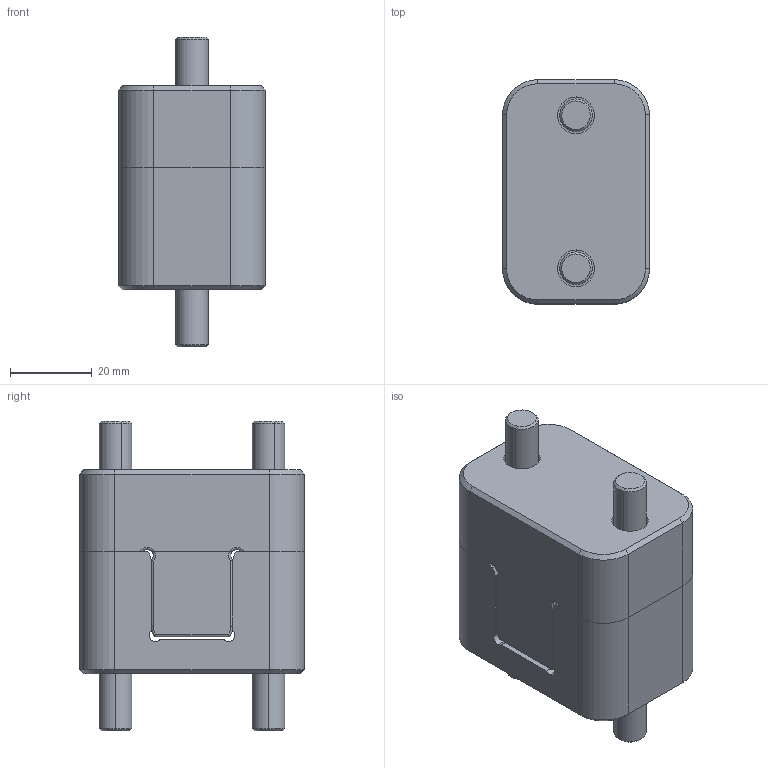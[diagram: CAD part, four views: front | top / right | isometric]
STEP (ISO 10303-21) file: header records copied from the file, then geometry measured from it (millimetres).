
FILE_DESCRIPTION (( 'STEP AP203' ), '1' );
FILE_NAME ('TLM36X55-R.step', '2018-03-16T16:55:22', ( '' ), ( '' ), 'SwSTEP 2.0', 'SolidWorks 2015', '' );
FILE_SCHEMA (( 'CONFIG_CONTROL_DESIGN' ));
Length unit declared in the file: millimetre
Products named in the file (5): TLM36X55-R MALE; TLM36X55-R; M8_X_35; M8_X_22; TLM36X55-R FEMALE
Assembly tree (6 placements, depth 2):
  TLM36X55-R
    TLM36X55-R MALE
    TLM36X55-R FEMALE
    M8_X_22  x2
    M8_X_35  x2
Bounding box: 36 x 55 x 76 mm (x, y, z)
Volume: 92876 mm3; surface area: 27485.7 mm2
Topology: 6 solids, 6 shells, 412 faces, 914 edges, 594 vertices
Faces by surface type: cylinder 203, plane 153, cone 26, torus 24, bspline 6
Entity records: 11539 total; most frequent: CARTESIAN_POINT 2255, DIRECTION 1984, ORIENTED_EDGE 1676, EDGE_CURVE 838, AXIS2_PLACEMENT_3D 821, VERTEX_POINT 546, EDGE_LOOP 460, CIRCLE 442
